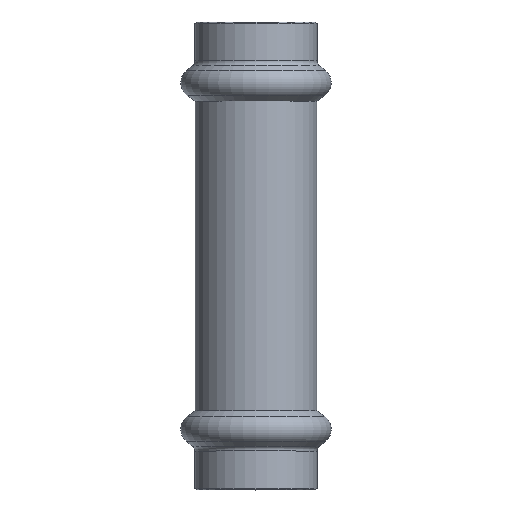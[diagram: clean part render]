
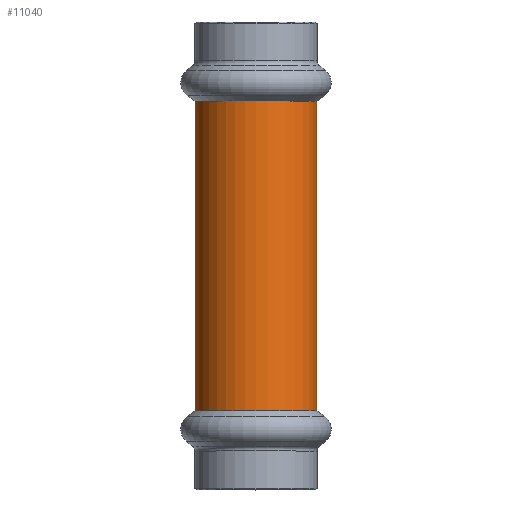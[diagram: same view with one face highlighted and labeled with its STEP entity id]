
A CAD part, top view. The second image highlights one B-rep face of the part: STEP entity #11040.
In plain terms, the highlighted cylindrical face has radius 10.425 mm (diameter 20.85 mm), a partial arc.
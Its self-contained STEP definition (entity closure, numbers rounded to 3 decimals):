
#100=CARTESIAN_POINT('',(12.071,39.73,0.));
#110=VERTEX_POINT('',#100);
#160=CARTESIAN_POINT('',(22.496,39.73,0.));
#170=DIRECTION('',(0.,1.,0.));
#180=DIRECTION('',(-1.,0.,0.));
#190=AXIS2_PLACEMENT_3D('',#160,#170,#180);
#200=CIRCLE('',#190,10.425);
#210=CARTESIAN_POINT('',(32.921,39.73,
0.));
#220=VERTEX_POINT('',#210);
#850=CARTESIAN_POINT('',(22.496,12.737,0.));
#860=DIRECTION('',(0.,1.,0.));
#870=DIRECTION('',(1.,0.,0.));
#880=AXIS2_PLACEMENT_3D('',#850,#860,#870);
#890=CYLINDRICAL_SURFACE('',#880,10.425);
#900=CARTESIAN_POINT('',(32.921,12.737,0.));
#910=DIRECTION('',(0.,1.,0.));
#920=VECTOR('',#910,1.);
#930=LINE('',#900,#920);
#940=CARTESIAN_POINT('',(32.921,-13.255,0.));
#950=VERTEX_POINT('',#940);
#960=EDGE_CURVE('',#950,#220,#930,.T.);
#990=CARTESIAN_POINT('',(12.071,12.737,
0.));
#1000=DIRECTION('',(0.,1.,0.));
#1010=VECTOR('',#1000,1.);
#1020=LINE('',#990,#1010);
#1030=CARTESIAN_POINT('',(12.071,-13.255,
0.));
#1040=VERTEX_POINT('',#1030);
#1050=EDGE_CURVE('',#1040,#110,#1020,.T.);
#1070=CARTESIAN_POINT('',(22.496,-13.255,0.));
#1080=DIRECTION('',(0.,-1.,0.));
#1090=DIRECTION('',(1.,0.,0.));
#1100=AXIS2_PLACEMENT_3D('',#1070,#1080,#1090);
#1110=CIRCLE('',#1100,10.425);
#10510=EDGE_CURVE('',#950,#1040,#1110,.T.);
#10970=ORIENTED_EDGE('',*,*,#10510,.F.);
#10980=ORIENTED_EDGE('',*,*,#1050,.F.);
#10990=EDGE_CURVE('',#110,#220,#200,.T.);
#11000=ORIENTED_EDGE('',*,*,#10990,.F.);
#11010=ORIENTED_EDGE('',*,*,#960,.T.);
#11020=EDGE_LOOP('',(#11010,#11000,#10980,#10970));
#11030=FACE_OUTER_BOUND('',#11020,.T.);
#11040=ADVANCED_FACE('',(#11030),#890,.T.);
